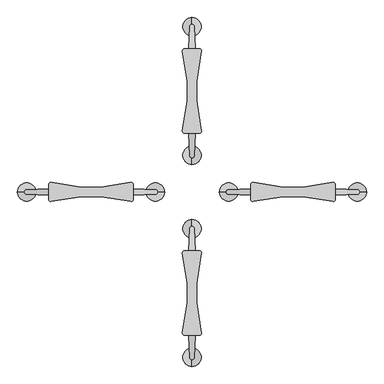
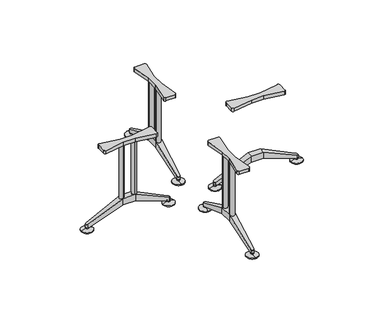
"""IFC4 building model written with IfcOpenShell, lengths in millimetres: furniture geometry, Furniture_Wilkhahn_622-45_Logon Circular Table : Logon 622/45_2000D x 730H."""

from ifc_helpers import new_model, si_unit, point, frame, frame_2d, origin, place, context, project, spatial, polyline, circle_curve, ellipse_curve, trimmed, segment, composite_curve, outline, extrude, source, transform, mapped, element, save
from ifc_brep_helpers import plane_surface, cylinder_surface, revolved_surface, advanced_brep


def furniture_6f6d3ea4(model_context):
    return source(origin(), model_context, "Body", "SolidModel", [
        advanced_brep(
        [(0.0, 926.4755164, 0.0), (0.0, 976.4755164, 0.0), (0.0, 876.4755164, 0.0), (0.0, 976.4755164, 6.0), (0.0, 876.4755164, 6.0), (0.0, 938.9511544, 17.0), (0.0, 913.9998784, 17.0), (0.0, 938.9511544, 27.0), (0.0, 913.9998784, 27.0), (0.0, 926.4755164, 27.0)],
        [
            (0, 1),
            (1, 2, circle_curve(frame((0.0, 926.4755164, 0.0), z_axis=(0.0, 0.0, -1.0), x_axis=(0.0, 1.0, 0.0)), 50.0)),
            (2, 0),
            (2, 1, circle_curve(frame((0.0, 926.4755164, 0.0), z_axis=(0.0, 0.0, -1.0), x_axis=(0.0, 1.0, 0.0)), 50.0)),
            (1, 3),
            (3, 4, circle_curve(frame((0.0, 926.4755164, 6.0), z_axis=(0.0, 0.0, -1.0), x_axis=(0.0, 1.0, 0.0)), 50.0)),
            (4, 2),
            (4, 3, circle_curve(frame((0.0, 926.4755164, 6.0), z_axis=(0.0, 0.0, -1.0), x_axis=(0.0, 1.0, 0.0)), 50.0)),
            (3, 5),
            (5, 6, circle_curve(frame((0.0, 926.4755164, 17.0), z_axis=(0.0, 0.0, -1.0), x_axis=(0.0, 1.0, 0.0)), 12.475638)),
            (6, 4),
            (6, 5, circle_curve(frame((0.0, 926.4755164, 17.0), z_axis=(0.0, 0.0, -1.0), x_axis=(0.0, 1.0, 0.0)), 12.475638)),
            (5, 7),
            (7, 8, circle_curve(frame((0.0, 926.4755164, 27.0), z_axis=(0.0, 0.0, -1.0), x_axis=(0.0, 1.0, 0.0)), 12.475638)),
            (8, 6),
            (8, 7, circle_curve(frame((0.0, 926.4755164, 27.0), z_axis=(0.0, 0.0, -1.0), x_axis=(0.0, 1.0, 0.0)), 12.475638)),
            (7, 9),
            (9, 8),
        ],
        [
            plane_surface(frame((0.0, 926.4755164, 0.0), z_axis=(0.0, 0.0, -1.0), x_axis=(0.0, 1.0, 0.0))),
            cylinder_surface(frame((0.0, 926.4755164, 27.0), z_axis=(0.0, 0.0, -1.0), x_axis=(0.0, 1.0, 0.0)), 50.0),
            revolved_surface(polyline([(0.0, 938.9511544, 17.0), (0.0, 976.4755164, 6.0)]), (0.0, 926.4755164, 27.0), (0.0, 0.0, -1.0)),
            cylinder_surface(frame((0.0, 926.4755164, 27.0), z_axis=(0.0, 0.0, -1.0), x_axis=(0.0, 1.0, 0.0)), 12.475638),
            plane_surface(frame((0.0, 926.4755164, 27.0), z_axis=(0.0, 0.0, 1.0), x_axis=(0.0, 1.0, 0.0))),
        ],
        [
            (0, [[1, 2, 3]]),
            (0, [[-3, 4, -1]]),
            (1, [[-2, 5, 6, 7]]),
            (1, [[-4, -7, 8, -5]]),
            (2, [[-6, 9, 10, 11]]),
            (2, [[-8, -11, 12, -9]]),
            (3, [[-10, 13, 14, 15]]),
            (3, [[-12, -15, 16, -13]]),
            (4, [[-14, 17, 18]]),
            (4, [[-16, -18, -17]]),
        ],
    ),
        advanced_brep(
        [(0.0, 275.4267924, 0.0), (0.0, 175.4267924, 0.0), (0.0, 225.4267924, 0.0), (0.0, 275.4267924, 6.0), (0.0, 175.4267924, 6.0), (0.0, 237.9024304, 17.0), (0.0, 212.9511544, 17.0), (0.0, 237.9024304, 27.0), (0.0, 212.9511544, 27.0), (0.0, 225.4267924, 27.0)],
        [
            (0, 1, circle_curve(frame((0.0, 225.4267924, 0.0), z_axis=(0.0, 0.0, -1.0), x_axis=(0.0, -1.0, 0.0)), 50.0)),
            (1, 2),
            (2, 0),
            (1, 0, circle_curve(frame((0.0, 225.4267924, 0.0), z_axis=(0.0, 0.0, -1.0), x_axis=(0.0, -1.0, 0.0)), 50.0)),
            (3, 4, circle_curve(frame((0.0, 225.4267924, 6.0), z_axis=(0.0, 0.0, -1.0), x_axis=(0.0, -1.0, 0.0)), 50.0)),
            (4, 1),
            (0, 3),
            (4, 3, circle_curve(frame((0.0, 225.4267924, 6.0), z_axis=(0.0, 0.0, -1.0), x_axis=(0.0, -1.0, 0.0)), 50.0)),
            (5, 6, circle_curve(frame((0.0, 225.4267924, 17.0), z_axis=(0.0, 0.0, -1.0), x_axis=(0.0, -1.0, 0.0)), 12.475638)),
            (6, 4),
            (3, 5),
            (6, 5, circle_curve(frame((0.0, 225.4267924, 17.0), z_axis=(0.0, 0.0, -1.0), x_axis=(0.0, -1.0, 0.0)), 12.475638)),
            (7, 8, circle_curve(frame((0.0, 225.4267924, 27.0), z_axis=(0.0, 0.0, -1.0), x_axis=(0.0, -1.0, 0.0)), 12.475638)),
            (8, 6),
            (5, 7),
            (8, 7, circle_curve(frame((0.0, 225.4267924, 27.0), z_axis=(0.0, 0.0, -1.0), x_axis=(0.0, -1.0, 0.0)), 12.475638)),
            (9, 8),
            (7, 9),
        ],
        [
            plane_surface(frame((0.0, 225.4267924, 0.0), z_axis=(0.0, 0.0, -1.0), x_axis=(0.0, -1.0, 0.0))),
            cylinder_surface(frame((0.0, 225.4267924, 27.0), z_axis=(0.0, 0.0, 1.0), x_axis=(0.0, -1.0, 0.0)), 50.0),
            revolved_surface(polyline([(0.0, 175.4267924, 6.0), (0.0, 212.9511544, 17.0)]), (0.0, 225.4267924, 27.0), (0.0, 0.0, 1.0)),
            cylinder_surface(frame((0.0, 225.4267924, 27.0), z_axis=(0.0, 0.0, 1.0), x_axis=(0.0, -1.0, 0.0)), 12.475638),
            plane_surface(frame((0.0, 225.4267924, 27.0), z_axis=(0.0, 0.0, 1.0), x_axis=(0.0, -1.0, 0.0))),
        ],
        [
            (0, [[1, 2, 3]]),
            (0, [[4, -3, -2]]),
            (1, [[5, 6, -1, 7]]),
            (1, [[8, -7, -4, -6]]),
            (2, [[9, 10, -5, 11]]),
            (2, [[12, -11, -8, -10]]),
            (3, [[13, 14, -9, 15]]),
            (3, [[16, -15, -12, -14]]),
            (4, [[17, -13, 18]]),
            (4, [[-18, -16, -17]]),
        ],
    ),
        extrude(outline(composite_curve([segment(polyline([(-25.0, 628.9511544), (-51.7160071, 792.0109222)]), True, "CONTINUOUS"), segment(trimmed(circle_curve(frame_2d((-39.8739001, 793.9511544)), 12.0), [point((-51.7160071, 792.0109222))], [point((-39.8739001, 805.9511544))], False, "CARTESIAN"), True, "CONTINUOUS"), segment(polyline([(-39.8739001, 805.9511544), (39.8739001, 805.9511544)]), True, "CONTINUOUS"), segment(trimmed(circle_curve(frame_2d((39.8739001, 793.9511544)), 12.0), [point((39.8739001, 805.9511544))], [point((51.7160071, 792.0109222))], False, "CARTESIAN"), True, "CONTINUOUS"), segment(polyline([(51.7160071, 792.0109222), (25.0, 628.9511544), (25.0, 522.9511544), (51.7160071, 359.8913867)]), True, "CONTINUOUS"), segment(trimmed(circle_curve(frame_2d((39.8739001, 357.9511544)), 12.0), [point((51.7160071, 359.8913867))], [point((39.8739001, 345.9511544))], False, "CARTESIAN"), True, "CONTINUOUS"), segment(polyline([(39.8739001, 345.9511544), (-39.8739001, 345.9511544)]), True, "CONTINUOUS"), segment(trimmed(circle_curve(frame_2d((-39.8739001, 357.9511544)), 12.0), [point((-39.8739001, 345.9511544))], [point((-51.7160071, 359.8913867))], False, "CARTESIAN"), True, "CONTINUOUS"), segment(polyline([(-51.7160071, 359.8913867), (-25.0, 522.9511544), (-25.0, 628.9511544)]), True, "CONTINUOUS")], self_intersect=False)), frame((0.0, 0.0, 675.0), z_axis=(0.0, 0.0, 1.0), x_axis=(1.0, 0.0, 0.0)), (0.0, 0.0, 1.0), 29.0),
        advanced_brep(
        [(25.0, 522.9511544, 140.0), (25.0, 628.9511544, 140.0), (25.0, 628.9511544, 195.0), (25.0, 522.9511544, 195.0), (-25.0, 522.9511544, 195.0), (-25.0, 628.9511544, 195.0), (-25.0, 628.9511544, 140.0), (-25.0, 522.9511544, 140.0), (-13.4930419, 237.9024304, 27.0), (13.4930419, 237.9024304, 27.0), (12.9894205, 225.4267924, 27.0), (0.0, 212.9511544, 27.0), (-12.9894205, 225.4267924, 27.0), (-12.9894205, 225.4267924, 56.4159205), (0.0, 212.9511544, 50.6048844), (12.9894205, 225.4267924, 56.4159205), (-12.9894205, 926.4755164, 56.4159205), (-12.9894205, 926.4755164, 27.0), (-13.4930419, 913.9998784, 27.0), (12.9894205, 926.4755164, 27.0), (12.9894205, 926.4755164, 56.4159205), (13.4930419, 913.9998784, 27.0), (0.0, 938.9511544, 27.0), (0.0, 938.9511544, 50.6048844)],
        [
            (0, 1),
            (1, 2),
            (2, 3),
            (3, 0),
            (4, 5),
            (5, 6),
            (6, 7),
            (7, 4),
            (8, 9),
            (9, 10),
            (10, 11, circle_curve(frame((0.0, 225.9511544, 27.0), z_axis=(0.0, 0.0, -1.0), x_axis=(-1.0, 0.0, 0.0)), 13.0)),
            (11, 12, circle_curve(frame((0.0, 225.9511544, 27.0), z_axis=(0.0, 0.0, -1.0), x_axis=(-1.0, 0.0, 0.0)), 13.0)),
            (12, 8),
            (3, 4),
            (4, 13),
            (13, 14, ellipse_curve(frame((0.0, 225.9511544, 56.6601634), z_axis=(0.0, -0.4222333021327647, 0.9064871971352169), x_axis=(0.0, -0.906487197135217, -0.4222333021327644)), 14.341074, 13.0)),
            (14, 15, ellipse_curve(frame((0.0, 225.9511544, 56.6601634), z_axis=(0.0, -0.4222333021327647, 0.9064871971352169), x_axis=(0.0, -0.906487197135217, -0.4222333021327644)), 14.341074, 13.0)),
            (15, 3),
            (7, 0),
            (0, 9),
            (8, 7),
            (16, 17),
            (17, 18),
            (18, 6),
            (5, 16),
            (19, 20),
            (20, 2),
            (1, 21),
            (21, 19),
            (2, 5),
            (6, 1),
            (19, 22, circle_curve(frame((0.0, 925.9511544, 27.0), z_axis=(0.0, 0.0, 1.0), x_axis=(-1.0, 0.0, 0.0)), 13.0)),
            (22, 17, circle_curve(frame((0.0, 925.9511544, 27.0), z_axis=(0.0, 0.0, 1.0), x_axis=(-1.0, 0.0, 0.0)), 13.0)),
            (16, 23, ellipse_curve(frame((0.0, 925.9511544, 56.6601634), z_axis=(0.0, -0.4222333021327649, -0.9064871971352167), x_axis=(0.0, 0.9064871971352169, -0.4222333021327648)), 14.341074, 13.0)),
            (23, 20, ellipse_curve(frame((0.0, 925.9511544, 56.6601634), z_axis=(0.0, -0.4222333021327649, -0.9064871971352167), x_axis=(0.0, 0.9064871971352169, -0.4222333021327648)), 14.341074, 13.0)),
            (15, 10),
            (13, 12),
            (21, 18),
        ],
        [
            plane_surface(frame((25.0, 229.6976943, 27.0), z_axis=(1.0, 0.0, 0.0), x_axis=(0.0, 1.0, 0.0))),
            plane_surface(frame((-25.0, 229.6976943, 27.0), z_axis=(-1.0, 0.0, 0.0), x_axis=(0.0, -1.0, 0.0))),
            plane_surface(frame((-25.0, 237.9024304, 27.0), z_axis=(0.0, 0.0, -1.0), x_axis=(1.0, 0.0, 0.0))),
            plane_surface(frame((-25.0, 212.9511544, 50.6048844), z_axis=(0.0, -0.4222333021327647, 0.9064871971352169), x_axis=(1.0, 0.0, 0.0))),
            plane_surface(frame((-25.0, 522.9511544, 140.0), z_axis=(0.0, 0.3685226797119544, -0.929618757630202), x_axis=(1.0, 0.0, 0.0))),
            plane_surface(frame((-25.0, 628.9511544, 195.0), z_axis=(-0.9991861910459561, 0.04033553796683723, 0.0), x_axis=(0.0, 0.0, -1.0))),
            plane_surface(frame((12.9894205, 926.4755164, 195.0), z_axis=(0.9991861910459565, 0.040335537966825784, 0.0), x_axis=(0.0, 0.0, -1.0))),
            plane_surface(frame((-25.0, 522.9511544, 195.0), z_axis=(0.0, 0.0, 1.0), x_axis=(1.0, 0.0, 0.0))),
            plane_surface(frame((-25.0, 628.9511544, 140.0), z_axis=(0.0, 0.0, -1.0), x_axis=(1.0, 0.0, 0.0))),
            cylinder_surface(frame((0.0, 925.9511544, 0.0), z_axis=(0.0, 0.0, -1.0), x_axis=(-1.0, 0.0, 0.0)), 13.0),
            plane_surface(frame((25.0, 522.9511544, 195.0), z_axis=(0.9991861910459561, -0.04033553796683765, 0.0), x_axis=(0.0, 0.0, -1.0))),
            cylinder_surface(frame((0.0, 225.9511544, -14.190167), z_axis=(0.0, 0.0, -1.0), x_axis=(-1.0, 0.0, 0.0)), 13.0),
            plane_surface(frame((-12.9894205, 225.4267924, 195.0), z_axis=(-0.9991861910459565, -0.04033553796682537, 0.0), x_axis=(0.0, 0.0, -1.0))),
            plane_surface(frame((-25.0, 628.9511544, 195.0), z_axis=(0.0, 0.4222333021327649, 0.9064871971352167), x_axis=(1.0, 0.0, 0.0))),
            plane_surface(frame((-25.0, 938.9511544, 27.0), z_axis=(0.0, 0.0, -1.0), x_axis=(1.0, 0.0, 0.0))),
            plane_surface(frame((-25.0, 913.9998784, 27.0), z_axis=(0.0, -0.3685226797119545, -0.929618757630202), x_axis=(1.0, 0.0, 0.0))),
        ],
        [
            (0, [[1, 2, 3, 4]]),
            (1, [[5, 6, 7, 8]]),
            (2, [[9, 10, 11, 12, 13]]),
            (3, [[14, 15, 16, 17, 18]]),
            (4, [[19, 20, -9, 21]]),
            (5, [[22, 23, 24, -6, 25]]),
            (6, [[26, 27, -2, 28, 29]]),
            (7, [[-3, 30, -5, -14]]),
            (8, [[-1, -19, -7, 31]]),
            (9, [[-26, 32, 33, -22, 34, 35]]),
            (10, [[36, -10, -20, -4, -18]]),
            (11, [[-36, -17, -16, 37, -12, -11]]),
            (12, [[-37, -15, -8, -21, -13]]),
            (13, [[-30, -27, -35, -34, -25]]),
            (14, [[38, -23, -33, -32, -29]]),
            (15, [[-31, -24, -38, -28]]),
        ],
    ),
        extrude(outline(composite_curve([segment(trimmed(circle_curve(frame_2d((0.0, 628.9511544)), 20.0), [point((20.0, 628.9511544))], [point((-20.0, 628.9511544))], False, "CARTESIAN"), True, "CONTINUOUS"), segment(trimmed(circle_curve(frame_2d((0.0, 628.9511544)), 20.0), [point((-20.0, 628.9511544))], [point((20.0, 628.9511544))], False, "CARTESIAN"), True, "CONTINUOUS")], self_intersect=False)), frame((0.0, 0.0, 140.0), z_axis=(0.0, 0.0, 1.0), x_axis=(1.0, 0.0, 0.0)), (0.0, 0.0, 1.0), 535.0),
        extrude(outline(composite_curve([segment(trimmed(circle_curve(frame_2d((0.0, 522.9511544)), 20.0), [point((20.0, 522.9511544))], [point((-20.0, 522.9511544))], False, "CARTESIAN"), True, "CONTINUOUS"), segment(trimmed(circle_curve(frame_2d((0.0, 522.9511544)), 20.0), [point((-20.0, 522.9511544))], [point((20.0, 522.9511544))], False, "CARTESIAN"), True, "CONTINUOUS")], self_intersect=False)), frame((0.0, 0.0, 140.0), z_axis=(0.0, 0.0, 1.0), x_axis=(1.0, 0.0, 0.0)), (0.0, 0.0, 1.0), 535.0),
        advanced_brep(
        [(0.0, -874.5732076, 0.0), (0.0, -824.5732076, 0.0), (0.0, -924.5732076, 0.0), (0.0, -824.5732076, 6.0), (0.0, -924.5732076, 6.0), (0.0, -862.0975696, 17.0), (0.0, -887.0488456, 17.0), (0.0, -862.0975696, 27.0), (0.0, -887.0488456, 27.0), (0.0, -874.5732076, 27.0)],
        [
            (0, 1),
            (1, 2, circle_curve(frame((0.0, -874.5732076, 0.0), z_axis=(0.0, 0.0, -1.0), x_axis=(0.0, -1.0, 0.0)), 50.0)),
            (2, 0),
            (2, 1, circle_curve(frame((0.0, -874.5732076, 0.0), z_axis=(0.0, 0.0, -1.0), x_axis=(0.0, -1.0, 0.0)), 50.0)),
            (1, 3),
            (3, 4, circle_curve(frame((0.0, -874.5732076, 6.0), z_axis=(0.0, 0.0, -1.0), x_axis=(0.0, -1.0, 0.0)), 50.0)),
            (4, 2),
            (4, 3, circle_curve(frame((0.0, -874.5732076, 6.0), z_axis=(0.0, 0.0, -1.0), x_axis=(0.0, -1.0, 0.0)), 50.0)),
            (3, 5),
            (5, 6, circle_curve(frame((0.0, -874.5732076, 17.0), z_axis=(0.0, 0.0, -1.0), x_axis=(0.0, -1.0, 0.0)), 12.475638)),
            (6, 4),
            (6, 5, circle_curve(frame((0.0, -874.5732076, 17.0), z_axis=(0.0, 0.0, -1.0), x_axis=(0.0, -1.0, 0.0)), 12.475638)),
            (5, 7),
            (7, 8, circle_curve(frame((0.0, -874.5732076, 27.0), z_axis=(0.0, 0.0, -1.0), x_axis=(0.0, -1.0, 0.0)), 12.475638)),
            (8, 6),
            (8, 7, circle_curve(frame((0.0, -874.5732076, 27.0), z_axis=(0.0, 0.0, -1.0), x_axis=(0.0, -1.0, 0.0)), 12.475638)),
            (7, 9),
            (9, 8),
        ],
        [
            plane_surface(frame((0.0, -874.5732076, 0.0), z_axis=(0.0, 0.0, -1.0), x_axis=(0.0, -1.0, 0.0))),
            cylinder_surface(frame((0.0, -874.5732076, 27.0), z_axis=(0.0, 0.0, -1.0), x_axis=(0.0, -1.0, 0.0)), 50.0),
            revolved_surface(polyline([(0.0, -887.0488456, 17.0), (0.0, -924.5732076, 6.0)]), (0.0, -874.5732076, 27.0), (0.0, 0.0, -1.0)),
            cylinder_surface(frame((0.0, -874.5732076, 27.0), z_axis=(0.0, 0.0, -1.0), x_axis=(0.0, -1.0, 0.0)), 12.475638),
            plane_surface(frame((0.0, -874.5732076, 27.0), z_axis=(0.0, 0.0, 1.0), x_axis=(0.0, -1.0, 0.0))),
        ],
        [
            (0, [[1, 2, 3]]),
            (0, [[-3, 4, -1]]),
            (1, [[5, 6, 7, -2]]),
            (1, [[-7, 8, -5, -4]]),
            (2, [[9, 10, 11, -6]]),
            (2, [[-11, 12, -9, -8]]),
            (3, [[13, 14, 15, -10]]),
            (3, [[-15, 16, -13, -12]]),
            (4, [[17, 18, -14]]),
            (4, [[-18, -17, -16]]),
        ],
    ),
        advanced_brep(
        [(0.0, -223.5244836, 0.0), (0.0, -173.5244836, 0.0), (0.0, -123.5244836, 0.0), (0.0, -223.5244836, 6.0), (0.0, -123.5244836, 6.0), (0.0, -186.0001216, 17.0), (0.0, -161.0488456, 17.0), (0.0, -186.0001216, 27.0), (0.0, -161.0488456, 27.0), (0.0, -173.5244836, 27.0)],
        [
            (0, 1),
            (1, 2),
            (2, 0, circle_curve(frame((0.0, -173.5244836, 0.0), z_axis=(0.0, 0.0, -1.0), x_axis=(0.0, 1.0, 0.0)), 50.0)),
            (0, 2, circle_curve(frame((0.0, -173.5244836, 0.0), z_axis=(0.0, 0.0, -1.0), x_axis=(0.0, 1.0, 0.0)), 50.0)),
            (3, 0),
            (2, 4),
            (4, 3, circle_curve(frame((0.0, -173.5244836, 6.0), z_axis=(0.0, 0.0, -1.0), x_axis=(0.0, 1.0, 0.0)), 50.0)),
            (3, 4, circle_curve(frame((0.0, -173.5244836, 6.0), z_axis=(0.0, 0.0, -1.0), x_axis=(0.0, 1.0, 0.0)), 50.0)),
            (5, 3),
            (4, 6),
            (6, 5, circle_curve(frame((0.0, -173.5244836, 17.0), z_axis=(0.0, 0.0, -1.0), x_axis=(0.0, 1.0, 0.0)), 12.475638)),
            (5, 6, circle_curve(frame((0.0, -173.5244836, 17.0), z_axis=(0.0, 0.0, -1.0), x_axis=(0.0, 1.0, 0.0)), 12.475638)),
            (7, 5),
            (6, 8),
            (8, 7, circle_curve(frame((0.0, -173.5244836, 27.0), z_axis=(0.0, 0.0, -1.0), x_axis=(0.0, 1.0, 0.0)), 12.475638)),
            (7, 8, circle_curve(frame((0.0, -173.5244836, 27.0), z_axis=(0.0, 0.0, -1.0), x_axis=(0.0, 1.0, 0.0)), 12.475638)),
            (9, 7),
            (8, 9),
        ],
        [
            plane_surface(frame((0.0, -173.5244836, 0.0), z_axis=(0.0, 0.0, -1.0), x_axis=(0.0, 1.0, 0.0))),
            cylinder_surface(frame((0.0, -173.5244836, 27.0), z_axis=(0.0, 0.0, 1.0), x_axis=(0.0, 1.0, 0.0)), 50.0),
            revolved_surface(polyline([(0.0, -123.5244836, 6.0), (0.0, -161.0488456, 17.0)]), (0.0, -173.5244836, 27.0), (0.0, 0.0, 1.0)),
            cylinder_surface(frame((0.0, -173.5244836, 27.0), z_axis=(0.0, 0.0, 1.0), x_axis=(0.0, 1.0, 0.0)), 12.475638),
            plane_surface(frame((0.0, -173.5244836, 27.0), z_axis=(0.0, 0.0, 1.0), x_axis=(0.0, 1.0, 0.0))),
        ],
        [
            (0, [[1, 2, 3]]),
            (0, [[-2, -1, 4]]),
            (1, [[5, -3, 6, 7]]),
            (1, [[-6, -4, -5, 8]]),
            (2, [[9, -7, 10, 11]]),
            (2, [[-10, -8, -9, 12]]),
            (3, [[13, -11, 14, 15]]),
            (3, [[-14, -12, -13, 16]]),
            (4, [[17, -15, 18]]),
            (4, [[-18, -16, -17]]),
        ],
    ),
        extrude(outline(composite_curve([segment(polyline([(-25.0, -577.0488456), (-25.0, -471.0488456), (-51.7160071, -307.9890778)]), True, "CONTINUOUS"), segment(trimmed(circle_curve(frame_2d((-39.8739001, -306.0488456)), 12.0), [point((-51.7160071, -307.9890778))], [point((-39.8739001, -294.0488456))], False, "CARTESIAN"), True, "CONTINUOUS"), segment(polyline([(-39.8739001, -294.0488456), (39.8739001, -294.0488456)]), True, "CONTINUOUS"), segment(trimmed(circle_curve(frame_2d((39.8739001, -306.0488456)), 12.0), [point((39.8739001, -294.0488456))], [point((51.7160071, -307.9890778))], False, "CARTESIAN"), True, "CONTINUOUS"), segment(polyline([(51.7160071, -307.9890778), (25.0, -471.0488456), (25.0, -577.0488456), (51.7160071, -740.1086133)]), True, "CONTINUOUS"), segment(trimmed(circle_curve(frame_2d((39.8739001, -742.0488456)), 12.0), [point((51.7160071, -740.1086133))], [point((39.8739001, -754.0488456))], False, "CARTESIAN"), True, "CONTINUOUS"), segment(polyline([(39.8739001, -754.0488456), (-39.8739001, -754.0488456)]), True, "CONTINUOUS"), segment(trimmed(circle_curve(frame_2d((-39.8739001, -742.0488456)), 12.0), [point((-39.8739001, -754.0488456))], [point((-51.7160071, -740.1086133))], False, "CARTESIAN"), True, "CONTINUOUS"), segment(polyline([(-51.7160071, -740.1086133), (-25.0, -577.0488456)]), True, "CONTINUOUS")], self_intersect=False)), frame((0.0, 0.0, 675.0), z_axis=(0.0, 0.0, 1.0), x_axis=(1.0, 0.0, 0.0)), (0.0, 0.0, 1.0), 29.0),
        advanced_brep(
        [(25.0, -471.0488456, 140.0), (25.0, -471.0488456, 195.0), (25.0, -577.0488456, 195.0), (25.0, -577.0488456, 140.0), (-25.0, -471.0488456, 195.0), (-25.0, -471.0488456, 140.0), (-25.0, -577.0488456, 140.0), (-25.0, -577.0488456, 195.0), (-13.4930419, -186.0001216, 27.0), (-12.9894205, -173.5244836, 27.0), (0.0, -161.0488456, 27.0), (12.9894205, -173.5244836, 27.0), (13.4930419, -186.0001216, 27.0), (12.9894205, -173.5244836, 56.4159205), (0.0, -161.0488456, 50.6048844), (-12.9894205, -173.5244836, 56.4159205), (-12.9894205, -874.5732076, 56.4159205), (-13.4930419, -862.0975696, 27.0), (-12.9894205, -874.5732076, 27.0), (12.9894205, -874.5732076, 27.0), (13.4930419, -862.0975696, 27.0), (12.9894205, -874.5732076, 56.4159205), (0.0, -887.0488456, 50.6048844), (0.0, -887.0488456, 27.0)],
        [
            (0, 1),
            (1, 2),
            (2, 3),
            (3, 0),
            (4, 5),
            (5, 6),
            (6, 7),
            (7, 4),
            (8, 9),
            (9, 10, circle_curve(frame((0.0, -174.0488456, 27.0), z_axis=(0.0, 0.0, -1.0), x_axis=(-1.0, 0.0, 0.0)), 13.0)),
            (10, 11, circle_curve(frame((0.0, -174.0488456, 27.0), z_axis=(0.0, 0.0, -1.0), x_axis=(-1.0, 0.0, 0.0)), 13.0)),
            (11, 12),
            (12, 8),
            (1, 13),
            (13, 14, ellipse_curve(frame((0.0, -174.0488456, 56.6601634), z_axis=(0.0, 0.4222333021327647, 0.9064871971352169), x_axis=(0.0, 0.906487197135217, -0.4222333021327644)), 14.341074, 13.0)),
            (14, 15, ellipse_curve(frame((0.0, -174.0488456, 56.6601634), z_axis=(0.0, 0.4222333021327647, 0.9064871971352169), x_axis=(0.0, 0.906487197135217, -0.4222333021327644)), 14.341074, 13.0)),
            (15, 4),
            (4, 1),
            (5, 8),
            (12, 0),
            (0, 5),
            (16, 7),
            (6, 17),
            (17, 18),
            (18, 16),
            (19, 20),
            (20, 3),
            (2, 21),
            (21, 19),
            (7, 2),
            (3, 6),
            (21, 22, ellipse_curve(frame((0.0, -874.0488456, 56.6601634), z_axis=(0.0, 0.4222333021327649, -0.9064871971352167), x_axis=(0.0, -0.9064871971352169, -0.4222333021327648)), 14.341074, 13.0)),
            (22, 16, ellipse_curve(frame((0.0, -874.0488456, 56.6601634), z_axis=(0.0, 0.4222333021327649, -0.9064871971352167), x_axis=(0.0, -0.9064871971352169, -0.4222333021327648)), 14.341074, 13.0)),
            (18, 23, circle_curve(frame((0.0, -874.0488456, 27.0), z_axis=(0.0, 0.0, 1.0), x_axis=(-1.0, 0.0, 0.0)), 13.0)),
            (23, 19, circle_curve(frame((0.0, -874.0488456, 27.0), z_axis=(0.0, 0.0, 1.0), x_axis=(-1.0, 0.0, 0.0)), 13.0)),
            (11, 13),
            (9, 15),
            (17, 20),
        ],
        [
            plane_surface(frame((25.0, -177.7953854, 27.0), z_axis=(1.0, 0.0, 0.0), x_axis=(0.0, -1.0, 0.0))),
            plane_surface(frame((-25.0, -177.7953854, 27.0), z_axis=(-1.0, 0.0, 0.0), x_axis=(0.0, 1.0, 0.0))),
            plane_surface(frame((-25.0, -186.0001216, 27.0), z_axis=(0.0, 0.0, -1.0), x_axis=(1.0, 0.0, 0.0))),
            plane_surface(frame((-25.0, -161.0488456, 50.6048844), z_axis=(0.0, 0.4222333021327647, 0.9064871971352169), x_axis=(1.0, 0.0, 0.0))),
            plane_surface(frame((-25.0, -471.0488456, 140.0), z_axis=(0.0, -0.3685226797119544, -0.929618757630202), x_axis=(1.0, 0.0, 0.0))),
            plane_surface(frame((-25.0, -577.0488456, 195.0), z_axis=(-0.9991861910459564, -0.040335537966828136, 0.0), x_axis=(0.0, 0.0, -1.0))),
            plane_surface(frame((12.9894205, -874.5732076, 195.0), z_axis=(0.9991861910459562, -0.04033553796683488, 0.0), x_axis=(0.0, 0.0, -1.0))),
            plane_surface(frame((-25.0, -471.0488456, 195.0), z_axis=(0.0, 0.0, 1.0), x_axis=(1.0, 0.0, 0.0))),
            plane_surface(frame((-25.0, -577.0488456, 140.0), z_axis=(0.0, 0.0, -1.0), x_axis=(1.0, 0.0, 0.0))),
            cylinder_surface(frame((0.0, -874.0488456, 0.0), z_axis=(0.0, 0.0, -1.0), x_axis=(-1.0, 0.0, 0.0)), 13.0),
            plane_surface(frame((25.0, -471.0488456, 195.0), z_axis=(0.9991861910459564, 0.04033553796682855, 0.0), x_axis=(0.0, 0.0, -1.0))),
            cylinder_surface(frame((0.0, -174.0488456, -14.190167), z_axis=(0.0, 0.0, -1.0), x_axis=(-1.0, 0.0, 0.0)), 13.0),
            plane_surface(frame((-12.9894205, -173.5244836, 195.0), z_axis=(-0.9991861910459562, 0.040335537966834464, 0.0), x_axis=(0.0, 0.0, -1.0))),
            plane_surface(frame((-25.0, -577.0488456, 195.0), z_axis=(0.0, -0.4222333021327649, 0.9064871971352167), x_axis=(1.0, 0.0, 0.0))),
            plane_surface(frame((-25.0, -887.0488456, 27.0), z_axis=(0.0, 0.0, -1.0), x_axis=(1.0, 0.0, 0.0))),
            plane_surface(frame((-25.0, -862.0975696, 27.0), z_axis=(0.0, 0.3685226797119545, -0.929618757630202), x_axis=(1.0, 0.0, 0.0))),
        ],
        [
            (0, [[1, 2, 3, 4]]),
            (1, [[5, 6, 7, 8]]),
            (2, [[9, 10, 11, 12, 13]]),
            (3, [[14, 15, 16, 17, 18]]),
            (4, [[19, -13, 20, 21]]),
            (5, [[22, -7, 23, 24, 25]]),
            (6, [[26, 27, -3, 28, 29]]),
            (7, [[-18, -8, 30, -2]]),
            (8, [[31, -6, -21, -4]]),
            (9, [[32, 33, -25, 34, 35, -29]]),
            (10, [[-14, -1, -20, -12, 36]]),
            (11, [[-11, -10, 37, -16, -15, -36]]),
            (12, [[-9, -19, -5, -17, -37]]),
            (13, [[-22, -33, -32, -28, -30]]),
            (14, [[-26, -35, -34, -24, 38]]),
            (15, [[-27, -38, -23, -31]]),
        ],
    ),
        extrude(outline(composite_curve([segment(trimmed(circle_curve(frame_2d((0.0, -577.0488456)), 20.0), [point((20.0, -577.0488456))], [point((-20.0, -577.0488456))], False, "CARTESIAN"), True, "CONTINUOUS"), segment(trimmed(circle_curve(frame_2d((0.0, -577.0488456)), 20.0), [point((-20.0, -577.0488456))], [point((20.0, -577.0488456))], False, "CARTESIAN"), True, "CONTINUOUS")], self_intersect=False)), frame((0.0, 0.0, 140.0), z_axis=(0.0, 0.0, 1.0), x_axis=(1.0, 0.0, 0.0)), (0.0, 0.0, 1.0), 535.0),
        extrude(outline(composite_curve([segment(trimmed(circle_curve(frame_2d((0.0, -471.0488456)), 20.0), [point((20.0, -471.0488456))], [point((-20.0, -471.0488456))], False, "CARTESIAN"), True, "CONTINUOUS"), segment(trimmed(circle_curve(frame_2d((0.0, -471.0488456)), 20.0), [point((-20.0, -471.0488456))], [point((20.0, -471.0488456))], False, "CARTESIAN"), True, "CONTINUOUS")], self_intersect=False)), frame((0.0, 0.0, 140.0), z_axis=(0.0, 0.0, 1.0), x_axis=(1.0, 0.0, 0.0)), (0.0, 0.0, 1.0), 535.0),
        advanced_brep(
        [(-900.524362, 25.9511544, 0.0), (-850.524362, 25.9511544, 0.0), (-950.524362, 25.9511544, 0.0), (-850.524362, 25.9511544, 6.0), (-950.524362, 25.9511544, 6.0), (-888.048724, 25.9511544, 17.0), (-913.0, 25.9511544, 17.0), (-888.048724, 25.9511544, 27.0), (-913.0, 25.9511544, 27.0), (-900.524362, 25.9511544, 27.0)],
        [
            (0, 1),
            (1, 2, circle_curve(frame((-900.524362, 25.9511544, 0.0), z_axis=(0.0, 0.0, -1.0), x_axis=(-1.0, 0.0, 0.0)), 50.0)),
            (2, 0),
            (2, 1, circle_curve(frame((-900.524362, 25.9511544, 0.0), z_axis=(0.0, 0.0, -1.0), x_axis=(-1.0, 0.0, 0.0)), 50.0)),
            (1, 3),
            (3, 4, circle_curve(frame((-900.524362, 25.9511544, 6.0), z_axis=(0.0, 0.0, -1.0), x_axis=(-1.0, 0.0, 0.0)), 50.0)),
            (4, 2),
            (4, 3, circle_curve(frame((-900.524362, 25.9511544, 6.0), z_axis=(0.0, 0.0, -1.0), x_axis=(-1.0, 0.0, 0.0)), 50.0)),
            (3, 5),
            (5, 6, circle_curve(frame((-900.524362, 25.9511544, 17.0), z_axis=(0.0, 0.0, -1.0), x_axis=(-1.0, 0.0, 0.0)), 12.475638)),
            (6, 4),
            (6, 5, circle_curve(frame((-900.524362, 25.9511544, 17.0), z_axis=(0.0, 0.0, -1.0), x_axis=(-1.0, 0.0, 0.0)), 12.475638)),
            (5, 7),
            (7, 8, circle_curve(frame((-900.524362, 25.9511544, 27.0), z_axis=(0.0, 0.0, -1.0), x_axis=(-1.0, 0.0, 0.0)), 12.475638)),
            (8, 6),
            (8, 7, circle_curve(frame((-900.524362, 25.9511544, 27.0), z_axis=(0.0, 0.0, -1.0), x_axis=(-1.0, 0.0, 0.0)), 12.475638)),
            (7, 9),
            (9, 8),
        ],
        [
            plane_surface(frame((-900.524362, 25.9511544, 0.0), z_axis=(0.0, 0.0, -1.0), x_axis=(-1.0, 0.0, 0.0))),
            cylinder_surface(frame((-900.524362, 25.9511544, 27.0), z_axis=(0.0, 0.0, -1.0), x_axis=(-1.0, 0.0, 0.0)), 50.0),
            revolved_surface(polyline([(-913.0, 25.9511544, 17.0), (-950.524362, 25.9511544, 6.0)]), (-900.524362, 25.9511544, 27.0), (0.0, 0.0, -1.0)),
            cylinder_surface(frame((-900.524362, 25.9511544, 27.0), z_axis=(0.0, 0.0, -1.0), x_axis=(-1.0, 0.0, 0.0)), 12.475638),
            plane_surface(frame((-900.524362, 25.9511544, 27.0), z_axis=(0.0, 0.0, 1.0), x_axis=(-1.0, 0.0, 0.0))),
        ],
        [
            (0, [[1, 2, 3]]),
            (0, [[-3, 4, -1]]),
            (1, [[5, 6, 7, -2]]),
            (1, [[-7, 8, -5, -4]]),
            (2, [[9, 10, 11, -6]]),
            (2, [[-11, 12, -9, -8]]),
            (3, [[13, 14, 15, -10]]),
            (3, [[-15, 16, -13, -12]]),
            (4, [[17, 18, -14]]),
            (4, [[-18, -17, -16]]),
        ],
    ),
        advanced_brep(
        [(-249.475638, 25.9511544, 0.0), (-199.475638, 25.9511544, 0.0), (-149.475638, 25.9511544, 0.0), (-249.475638, 25.9511544, 6.0), (-149.475638, 25.9511544, 6.0), (-211.951276, 25.9511544, 17.0), (-187.0, 25.9511544, 17.0), (-211.951276, 25.9511544, 27.0), (-187.0, 25.9511544, 27.0), (-199.475638, 25.9511544, 27.0)],
        [
            (0, 1),
            (1, 2),
            (2, 0, circle_curve(frame((-199.475638, 25.9511544, 0.0), z_axis=(0.0, 0.0, -1.0), x_axis=(1.0, 0.0, 0.0)), 50.0)),
            (0, 2, circle_curve(frame((-199.475638, 25.9511544, 0.0), z_axis=(0.0, 0.0, -1.0), x_axis=(1.0, 0.0, 0.0)), 50.0)),
            (3, 0),
            (2, 4),
            (4, 3, circle_curve(frame((-199.475638, 25.9511544, 6.0), z_axis=(0.0, 0.0, -1.0), x_axis=(1.0, 0.0, 0.0)), 50.0)),
            (3, 4, circle_curve(frame((-199.475638, 25.9511544, 6.0), z_axis=(0.0, 0.0, -1.0), x_axis=(1.0, 0.0, 0.0)), 50.0)),
            (5, 3),
            (4, 6),
            (6, 5, circle_curve(frame((-199.475638, 25.9511544, 17.0), z_axis=(0.0, 0.0, -1.0), x_axis=(1.0, 0.0, 0.0)), 12.475638)),
            (5, 6, circle_curve(frame((-199.475638, 25.9511544, 17.0), z_axis=(0.0, 0.0, -1.0), x_axis=(1.0, 0.0, 0.0)), 12.475638)),
            (7, 5),
            (6, 8),
            (8, 7, circle_curve(frame((-199.475638, 25.9511544, 27.0), z_axis=(0.0, 0.0, -1.0), x_axis=(1.0, 0.0, 0.0)), 12.475638)),
            (7, 8, circle_curve(frame((-199.475638, 25.9511544, 27.0), z_axis=(0.0, 0.0, -1.0), x_axis=(1.0, 0.0, 0.0)), 12.475638)),
            (9, 7),
            (8, 9),
        ],
        [
            plane_surface(frame((-199.475638, 25.9511544, 0.0), z_axis=(0.0, 0.0, -1.0), x_axis=(1.0, 0.0, 0.0))),
            cylinder_surface(frame((-199.475638, 25.9511544, 27.0), z_axis=(0.0, 0.0, 1.0), x_axis=(1.0, 0.0, 0.0)), 50.0),
            revolved_surface(polyline([(-149.475638, 25.9511544, 6.0), (-187.0, 25.9511544, 17.0)]), (-199.475638, 25.9511544, 27.0), (0.0, 0.0, 1.0)),
            cylinder_surface(frame((-199.475638, 25.9511544, 27.0), z_axis=(0.0, 0.0, 1.0), x_axis=(1.0, 0.0, 0.0)), 12.475638),
            plane_surface(frame((-199.475638, 25.9511544, 27.0), z_axis=(0.0, 0.0, 1.0), x_axis=(1.0, 0.0, 0.0))),
        ],
        [
            (0, [[1, 2, 3]]),
            (0, [[-2, -1, 4]]),
            (1, [[5, -3, 6, 7]]),
            (1, [[-6, -4, -5, 8]]),
            (2, [[9, -7, 10, 11]]),
            (2, [[-10, -8, -9, 12]]),
            (3, [[13, -11, 14, 15]]),
            (3, [[-14, -12, -13, 16]]),
            (4, [[17, -15, 18]]),
            (4, [[-18, -16, -17]]),
        ],
    ),
        extrude(outline(composite_curve([segment(polyline([(-603.0, 50.9511544), (-497.0, 50.9511544), (-333.9402322, 77.6671616)]), True, "CONTINUOUS"), segment(trimmed(circle_curve(frame_2d((-332.0, 65.8250546)), 12.0), [point((-333.9402322, 77.6671616))], [point((-320.0, 65.8250546))], False, "CARTESIAN"), True, "CONTINUOUS"), segment(polyline([(-320.0, 65.8250546), (-320.0, -13.9227457)]), True, "CONTINUOUS"), segment(trimmed(circle_curve(frame_2d((-332.0, -13.9227457)), 12.0), [point((-320.0, -13.9227457))], [point((-333.9402322, -25.7648527))], False, "CARTESIAN"), True, "CONTINUOUS"), segment(polyline([(-333.9402322, -25.7648527), (-497.0, 0.9511544), (-603.0, 0.9511544), (-766.0597678, -25.7648527)]), True, "CONTINUOUS"), segment(trimmed(circle_curve(frame_2d((-768.0, -13.9227457)), 12.0), [point((-766.0597678, -25.7648527))], [point((-780.0, -13.9227457))], False, "CARTESIAN"), True, "CONTINUOUS"), segment(polyline([(-780.0, -13.9227457), (-780.0, 65.8250546)]), True, "CONTINUOUS"), segment(trimmed(circle_curve(frame_2d((-768.0, 65.8250546)), 12.0), [point((-780.0, 65.8250546))], [point((-766.0597678, 77.6671616))], False, "CARTESIAN"), True, "CONTINUOUS"), segment(polyline([(-766.0597678, 77.6671616), (-603.0, 50.9511544)]), True, "CONTINUOUS")], self_intersect=False)), frame((0.0, 0.0, 675.0), z_axis=(0.0, 0.0, 1.0), x_axis=(1.0, 0.0, 0.0)), (0.0, 0.0, 1.0), 29.0),
        advanced_brep(
        [(-497.0, 0.9511544, 140.0), (-497.0, 0.9511544, 195.0), (-603.0, 0.9511544, 195.0), (-603.0, 0.9511544, 140.0), (-497.0, 50.9511544, 195.0), (-497.0, 50.9511544, 140.0), (-603.0, 50.9511544, 140.0), (-603.0, 50.9511544, 195.0), (-211.951276, 39.4441963, 27.0), (-199.475638, 38.9405749, 27.0), (-187.0, 25.9511544, 27.0), (-199.475638, 12.9617339, 27.0), (-211.951276, 12.4581125, 27.0), (-199.475638, 12.9617339, 56.4159205), (-187.0, 25.9511544, 50.6048844), (-199.475638, 38.9405749, 56.4159205), (-900.524362, 38.9405749, 56.4159205), (-888.048724, 39.4441963, 27.0), (-900.524362, 38.9405749, 27.0), (-900.524362, 12.9617339, 27.0), (-888.048724, 12.4581125, 27.0), (-900.524362, 12.9617339, 56.4159205), (-913.0, 25.9511544, 50.6048844), (-913.0, 25.9511544, 27.0)],
        [
            (0, 1),
            (1, 2),
            (2, 3),
            (3, 0),
            (4, 5),
            (5, 6),
            (6, 7),
            (7, 4),
            (8, 9),
            (9, 10, circle_curve(frame((-200.0, 25.9511544, 27.0), z_axis=(0.0, 0.0, -1.0), x_axis=(0.0, 1.0, 0.0)), 13.0)),
            (10, 11, circle_curve(frame((-200.0, 25.9511544, 27.0), z_axis=(0.0, 0.0, -1.0), x_axis=(0.0, 1.0, 0.0)), 13.0)),
            (11, 12),
            (12, 8),
            (1, 13),
            (13, 14, ellipse_curve(frame((-200.0, 25.9511544, 56.6601634), z_axis=(0.4222333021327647, 0.0, 0.9064871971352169), x_axis=(0.906487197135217, 0.0, -0.4222333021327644)), 14.341074, 13.0)),
            (14, 15, ellipse_curve(frame((-200.0, 25.9511544, 56.6601634), z_axis=(0.4222333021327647, 0.0, 0.9064871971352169), x_axis=(0.906487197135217, 0.0, -0.4222333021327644)), 14.341074, 13.0)),
            (15, 4),
            (4, 1),
            (5, 8),
            (12, 0),
            (0, 5),
            (16, 7),
            (6, 17),
            (17, 18),
            (18, 16),
            (19, 20),
            (20, 3),
            (2, 21),
            (21, 19),
            (7, 2),
            (3, 6),
            (21, 22, ellipse_curve(frame((-900.0, 25.9511544, 56.6601634), z_axis=(0.4222333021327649, 0.0, -0.9064871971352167), x_axis=(-0.9064871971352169, 0.0, -0.4222333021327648)), 14.341074, 13.0)),
            (22, 16, ellipse_curve(frame((-900.0, 25.9511544, 56.6601634), z_axis=(0.4222333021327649, 0.0, -0.9064871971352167), x_axis=(-0.9064871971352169, 0.0, -0.4222333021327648)), 14.341074, 13.0)),
            (18, 23, circle_curve(frame((-900.0, 25.9511544, 27.0), z_axis=(0.0, 0.0, 1.0), x_axis=(0.0, 1.0, 0.0)), 13.0)),
            (23, 19, circle_curve(frame((-900.0, 25.9511544, 27.0), z_axis=(0.0, 0.0, 1.0), x_axis=(0.0, 1.0, 0.0)), 13.0)),
            (11, 13),
            (9, 15),
            (17, 20),
        ],
        [
            plane_surface(frame((-203.7465398, 0.9511544, 27.0), z_axis=(0.0, -1.0, 0.0), x_axis=(-1.0, 0.0, 0.0))),
            plane_surface(frame((-203.7465398, 50.9511544, 27.0), z_axis=(0.0, 1.0, 0.0), x_axis=(1.0, 0.0, 0.0))),
            plane_surface(frame((-211.951276, 50.9511544, 27.0), z_axis=(0.0, 0.0, -1.0), x_axis=(0.0, -1.0, 0.0))),
            plane_surface(frame((-187.0, 50.9511544, 50.6048844), z_axis=(0.4222333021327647, 0.0, 0.9064871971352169), x_axis=(0.0, -1.0, 0.0))),
            plane_surface(frame((-497.0, 50.9511544, 140.0), z_axis=(-0.3685226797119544, 0.0, -0.929618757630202), x_axis=(0.0, -1.0, 0.0))),
            plane_surface(frame((-603.0, 50.9511544, 195.0), z_axis=(-0.040335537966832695, 0.9991861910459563, 0.0), x_axis=(0.0, 0.0, -1.0))),
            plane_surface(frame((-900.524362, 12.9617339, 195.0), z_axis=(-0.04033553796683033, -0.9991861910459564, 0.0), x_axis=(0.0, 0.0, -1.0))),
            plane_surface(frame((-497.0, 50.9511544, 195.0), z_axis=(0.0, 0.0, 1.0), x_axis=(0.0, -1.0, 0.0))),
            plane_surface(frame((-603.0, 50.9511544, 140.0), z_axis=(0.0, 0.0, -1.0), x_axis=(0.0, -1.0, 0.0))),
            cylinder_surface(frame((-900.0, 25.9511544, 0.0), z_axis=(0.0, 0.0, -1.0), x_axis=(0.0, 1.0, 0.0)), 13.0),
            plane_surface(frame((-497.0, 0.9511544, 195.0), z_axis=(0.04033553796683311, -0.9991861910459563, 0.0), x_axis=(0.0, 0.0, -1.0))),
            cylinder_surface(frame((-200.0, 25.9511544, -14.190167), z_axis=(0.0, 0.0, -1.0), x_axis=(0.0, 1.0, 0.0)), 13.0),
            plane_surface(frame((-199.475638, 38.9405749, 195.0), z_axis=(0.04033553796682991, 0.9991861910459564, 0.0), x_axis=(0.0, 0.0, -1.0))),
            plane_surface(frame((-603.0, 50.9511544, 195.0), z_axis=(-0.4222333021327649, 0.0, 0.9064871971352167), x_axis=(0.0, -1.0, 0.0))),
            plane_surface(frame((-913.0, 50.9511544, 27.0), z_axis=(0.0, 0.0, -1.0), x_axis=(0.0, -1.0, 0.0))),
            plane_surface(frame((-888.048724, 50.9511544, 27.0), z_axis=(0.3685226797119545, 0.0, -0.929618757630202), x_axis=(0.0, -1.0, 0.0))),
        ],
        [
            (0, [[1, 2, 3, 4]]),
            (1, [[5, 6, 7, 8]]),
            (2, [[9, 10, 11, 12, 13]]),
            (3, [[14, 15, 16, 17, 18]]),
            (4, [[19, -13, 20, 21]]),
            (5, [[22, -7, 23, 24, 25]]),
            (6, [[26, 27, -3, 28, 29]]),
            (7, [[-18, -8, 30, -2]]),
            (8, [[31, -6, -21, -4]]),
            (9, [[32, 33, -25, 34, 35, -29]]),
            (10, [[-14, -1, -20, -12, 36]]),
            (11, [[-11, -10, 37, -16, -15, -36]]),
            (12, [[-9, -19, -5, -17, -37]]),
            (13, [[-22, -33, -32, -28, -30]]),
            (14, [[-26, -35, -34, -24, 38]]),
            (15, [[-27, -38, -23, -31]]),
        ],
    ),
        extrude(outline(composite_curve([segment(trimmed(circle_curve(frame_2d((-603.0, 25.9511544)), 20.0), [point((-603.0, 5.9511544))], [point((-603.0, 45.9511544))], False, "CARTESIAN"), True, "CONTINUOUS"), segment(trimmed(circle_curve(frame_2d((-603.0, 25.9511544)), 20.0), [point((-603.0, 45.9511544))], [point((-603.0, 5.9511544))], False, "CARTESIAN"), True, "CONTINUOUS")], self_intersect=False)), frame((0.0, 0.0, 140.0), z_axis=(0.0, 0.0, 1.0), x_axis=(1.0, 0.0, 0.0)), (0.0, 0.0, 1.0), 535.0),
        extrude(outline(composite_curve([segment(trimmed(circle_curve(frame_2d((-497.0, 25.9511544)), 20.0), [point((-497.0, 5.9511544))], [point((-497.0, 45.9511544))], False, "CARTESIAN"), True, "CONTINUOUS"), segment(trimmed(circle_curve(frame_2d((-497.0, 25.9511544)), 20.0), [point((-497.0, 45.9511544))], [point((-497.0, 5.9511544))], False, "CARTESIAN"), True, "CONTINUOUS")], self_intersect=False)), frame((0.0, 0.0, 140.0), z_axis=(0.0, 0.0, 1.0), x_axis=(1.0, 0.0, 0.0)), (0.0, 0.0, 1.0), 535.0),
        advanced_brep(
        [(900.524362, 25.9511544, 0.0), (950.524362, 25.9511544, 0.0), (850.524362, 25.9511544, 0.0), (950.524362, 25.9511544, 6.0), (850.524362, 25.9511544, 6.0), (913.0, 25.9511544, 17.0), (888.048724, 25.9511544, 17.0), (913.0, 25.9511544, 27.0), (888.048724, 25.9511544, 27.0), (900.524362, 25.9511544, 27.0)],
        [
            (0, 1),
            (1, 2, circle_curve(frame((900.524362, 25.9511544, 0.0), z_axis=(0.0, 0.0, -1.0), x_axis=(1.0, 0.0, 0.0)), 50.0)),
            (2, 0),
            (2, 1, circle_curve(frame((900.524362, 25.9511544, 0.0), z_axis=(0.0, 0.0, -1.0), x_axis=(1.0, 0.0, 0.0)), 50.0)),
            (1, 3),
            (3, 4, circle_curve(frame((900.524362, 25.9511544, 6.0), z_axis=(0.0, 0.0, -1.0), x_axis=(1.0, 0.0, 0.0)), 50.0)),
            (4, 2),
            (4, 3, circle_curve(frame((900.524362, 25.9511544, 6.0), z_axis=(0.0, 0.0, -1.0), x_axis=(1.0, 0.0, 0.0)), 50.0)),
            (3, 5),
            (5, 6, circle_curve(frame((900.524362, 25.9511544, 17.0), z_axis=(0.0, 0.0, -1.0), x_axis=(1.0, 0.0, 0.0)), 12.475638)),
            (6, 4),
            (6, 5, circle_curve(frame((900.524362, 25.9511544, 17.0), z_axis=(0.0, 0.0, -1.0), x_axis=(1.0, 0.0, 0.0)), 12.475638)),
            (5, 7),
            (7, 8, circle_curve(frame((900.524362, 25.9511544, 27.0), z_axis=(0.0, 0.0, -1.0), x_axis=(1.0, 0.0, 0.0)), 12.475638)),
            (8, 6),
            (8, 7, circle_curve(frame((900.524362, 25.9511544, 27.0), z_axis=(0.0, 0.0, -1.0), x_axis=(1.0, 0.0, 0.0)), 12.475638)),
            (7, 9),
            (9, 8),
        ],
        [
            plane_surface(frame((900.524362, 25.9511544, 0.0), z_axis=(0.0, 0.0, -1.0), x_axis=(1.0, 0.0, 0.0))),
            cylinder_surface(frame((900.524362, 25.9511544, 27.0), z_axis=(0.0, 0.0, -1.0), x_axis=(1.0, 0.0, 0.0)), 50.0),
            revolved_surface(polyline([(913.0, 25.9511544, 17.0), (950.524362, 25.9511544, 6.0)]), (900.524362, 25.9511544, 27.0), (0.0, 0.0, -1.0)),
            cylinder_surface(frame((900.524362, 25.9511544, 27.0), z_axis=(0.0, 0.0, -1.0), x_axis=(1.0, 0.0, 0.0)), 12.475638),
            plane_surface(frame((900.524362, 25.9511544, 27.0), z_axis=(0.0, 0.0, 1.0), x_axis=(1.0, 0.0, 0.0))),
        ],
        [
            (0, [[1, 2, 3]]),
            (0, [[-3, 4, -1]]),
            (1, [[-2, 5, 6, 7]]),
            (1, [[-4, -7, 8, -5]]),
            (2, [[-6, 9, 10, 11]]),
            (2, [[-8, -11, 12, -9]]),
            (3, [[-10, 13, 14, 15]]),
            (3, [[-12, -15, 16, -13]]),
            (4, [[-14, 17, 18]]),
            (4, [[-16, -18, -17]]),
        ],
    ),
        advanced_brep(
        [(249.475638, 25.9511544, 0.0), (149.475638, 25.9511544, 0.0), (199.475638, 25.9511544, 0.0), (249.475638, 25.9511544, 6.0), (149.475638, 25.9511544, 6.0), (211.951276, 25.9511544, 17.0), (187.0, 25.9511544, 17.0), (211.951276, 25.9511544, 27.0), (187.0, 25.9511544, 27.0), (199.475638, 25.9511544, 27.0)],
        [
            (0, 1, circle_curve(frame((199.475638, 25.9511544, 0.0), z_axis=(0.0, 0.0, -1.0), x_axis=(-1.0, 0.0, 0.0)), 50.0)),
            (1, 2),
            (2, 0),
            (1, 0, circle_curve(frame((199.475638, 25.9511544, 0.0), z_axis=(0.0, 0.0, -1.0), x_axis=(-1.0, 0.0, 0.0)), 50.0)),
            (3, 4, circle_curve(frame((199.475638, 25.9511544, 6.0), z_axis=(0.0, 0.0, -1.0), x_axis=(-1.0, 0.0, 0.0)), 50.0)),
            (4, 1),
            (0, 3),
            (4, 3, circle_curve(frame((199.475638, 25.9511544, 6.0), z_axis=(0.0, 0.0, -1.0), x_axis=(-1.0, 0.0, 0.0)), 50.0)),
            (5, 6, circle_curve(frame((199.475638, 25.9511544, 17.0), z_axis=(0.0, 0.0, -1.0), x_axis=(-1.0, 0.0, 0.0)), 12.475638)),
            (6, 4),
            (3, 5),
            (6, 5, circle_curve(frame((199.475638, 25.9511544, 17.0), z_axis=(0.0, 0.0, -1.0), x_axis=(-1.0, 0.0, 0.0)), 12.475638)),
            (7, 8, circle_curve(frame((199.475638, 25.9511544, 27.0), z_axis=(0.0, 0.0, -1.0), x_axis=(-1.0, 0.0, 0.0)), 12.475638)),
            (8, 6),
            (5, 7),
            (8, 7, circle_curve(frame((199.475638, 25.9511544, 27.0), z_axis=(0.0, 0.0, -1.0), x_axis=(-1.0, 0.0, 0.0)), 12.475638)),
            (9, 8),
            (7, 9),
        ],
        [
            plane_surface(frame((199.475638, 25.9511544, 0.0), z_axis=(0.0, 0.0, -1.0), x_axis=(-1.0, 0.0, 0.0))),
            cylinder_surface(frame((199.475638, 25.9511544, 27.0), z_axis=(0.0, 0.0, 1.0), x_axis=(-1.0, 0.0, 0.0)), 50.0),
            revolved_surface(polyline([(149.475638, 25.9511544, 6.0), (187.0, 25.9511544, 17.0)]), (199.475638, 25.9511544, 27.0), (0.0, 0.0, 1.0)),
            cylinder_surface(frame((199.475638, 25.9511544, 27.0), z_axis=(0.0, 0.0, 1.0), x_axis=(-1.0, 0.0, 0.0)), 12.475638),
            plane_surface(frame((199.475638, 25.9511544, 27.0), z_axis=(0.0, 0.0, 1.0), x_axis=(-1.0, 0.0, 0.0))),
        ],
        [
            (0, [[1, 2, 3]]),
            (0, [[4, -3, -2]]),
            (1, [[5, 6, -1, 7]]),
            (1, [[8, -7, -4, -6]]),
            (2, [[9, 10, -5, 11]]),
            (2, [[12, -11, -8, -10]]),
            (3, [[13, 14, -9, 15]]),
            (3, [[16, -15, -12, -14]]),
            (4, [[17, -13, 18]]),
            (4, [[-18, -16, -17]]),
        ],
    ),
        extrude(outline(composite_curve([segment(polyline([(603.0, 50.9511544), (766.0597678, 77.6671616)]), True, "CONTINUOUS"), segment(trimmed(circle_curve(frame_2d((768.0, 65.8250546)), 12.0), [point((766.0597678, 77.6671616))], [point((780.0, 65.8250546))], False, "CARTESIAN"), True, "CONTINUOUS"), segment(polyline([(780.0, 65.8250546), (780.0, -13.9227457)]), True, "CONTINUOUS"), segment(trimmed(circle_curve(frame_2d((768.0, -13.9227457)), 12.0), [point((780.0, -13.9227457))], [point((766.0597678, -25.7648527))], False, "CARTESIAN"), True, "CONTINUOUS"), segment(polyline([(766.0597678, -25.7648527), (603.0, 0.9511544), (497.0, 0.9511544), (333.9402322, -25.7648527)]), True, "CONTINUOUS"), segment(trimmed(circle_curve(frame_2d((332.0, -13.9227457)), 12.0), [point((333.9402322, -25.7648527))], [point((320.0, -13.9227457))], False, "CARTESIAN"), True, "CONTINUOUS"), segment(polyline([(320.0, -13.9227457), (320.0, 65.8250546)]), True, "CONTINUOUS"), segment(trimmed(circle_curve(frame_2d((332.0, 65.8250546)), 12.0), [point((320.0, 65.8250546))], [point((333.9402322, 77.6671616))], False, "CARTESIAN"), True, "CONTINUOUS"), segment(polyline([(333.9402322, 77.6671616), (497.0, 50.9511544), (603.0, 50.9511544)]), True, "CONTINUOUS")], self_intersect=False)), frame((0.0, 0.0, 675.0), z_axis=(0.0, 0.0, 1.0), x_axis=(1.0, 0.0, 0.0)), (0.0, 0.0, 1.0), 29.0),
        advanced_brep(
        [(497.0, 0.9511544, 140.0), (603.0, 0.9511544, 140.0), (603.0, 0.9511544, 195.0), (497.0, 0.9511544, 195.0), (497.0, 50.9511544, 195.0), (603.0, 50.9511544, 195.0), (603.0, 50.9511544, 140.0), (497.0, 50.9511544, 140.0), (211.951276, 39.4441963, 27.0), (211.951276, 12.4581125, 27.0), (199.475638, 12.9617339, 27.0), (187.0, 25.9511544, 27.0), (199.475638, 38.9405749, 27.0), (199.475638, 38.9405749, 56.4159205), (187.0, 25.9511544, 50.6048844), (199.475638, 12.9617339, 56.4159205), (900.524362, 38.9405749, 56.4159205), (900.524362, 38.9405749, 27.0), (888.048724, 39.4441963, 27.0), (900.524362, 12.9617339, 27.0), (900.524362, 12.9617339, 56.4159205), (888.048724, 12.4581125, 27.0), (913.0, 25.9511544, 27.0), (913.0, 25.9511544, 50.6048844)],
        [
            (0, 1),
            (1, 2),
            (2, 3),
            (3, 0),
            (4, 5),
            (5, 6),
            (6, 7),
            (7, 4),
            (8, 9),
            (9, 10),
            (10, 11, circle_curve(frame((200.0, 25.9511544, 27.0), z_axis=(0.0, 0.0, -1.0), x_axis=(0.0, 1.0, 0.0)), 13.0)),
            (11, 12, circle_curve(frame((200.0, 25.9511544, 27.0), z_axis=(0.0, 0.0, -1.0), x_axis=(0.0, 1.0, 0.0)), 13.0)),
            (12, 8),
            (3, 4),
            (4, 13),
            (13, 14, ellipse_curve(frame((200.0, 25.9511544, 56.6601634), z_axis=(-0.4222333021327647, 0.0, 0.9064871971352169), x_axis=(-0.906487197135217, 0.0, -0.4222333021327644)), 14.341074, 13.0)),
            (14, 15, ellipse_curve(frame((200.0, 25.9511544, 56.6601634), z_axis=(-0.4222333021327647, 0.0, 0.9064871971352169), x_axis=(-0.906487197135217, 0.0, -0.4222333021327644)), 14.341074, 13.0)),
            (15, 3),
            (7, 0),
            (0, 9),
            (8, 7),
            (16, 17),
            (17, 18),
            (18, 6),
            (5, 16),
            (19, 20),
            (20, 2),
            (1, 21),
            (21, 19),
            (2, 5),
            (6, 1),
            (19, 22, circle_curve(frame((900.0, 25.9511544, 27.0), z_axis=(0.0, 0.0, 1.0), x_axis=(0.0, 1.0, 0.0)), 13.0)),
            (22, 17, circle_curve(frame((900.0, 25.9511544, 27.0), z_axis=(0.0, 0.0, 1.0), x_axis=(0.0, 1.0, 0.0)), 13.0)),
            (16, 23, ellipse_curve(frame((900.0, 25.9511544, 56.6601634), z_axis=(-0.4222333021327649, 0.0, -0.9064871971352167), x_axis=(0.9064871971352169, 0.0, -0.4222333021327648)), 14.341074, 13.0)),
            (23, 20, ellipse_curve(frame((900.0, 25.9511544, 56.6601634), z_axis=(-0.4222333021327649, 0.0, -0.9064871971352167), x_axis=(0.9064871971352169, 0.0, -0.4222333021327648)), 14.341074, 13.0)),
            (15, 10),
            (13, 12),
            (21, 18),
        ],
        [
            plane_surface(frame((203.7465398, 0.9511544, 27.0), z_axis=(0.0, -1.0, 0.0), x_axis=(1.0, 0.0, 0.0))),
            plane_surface(frame((203.7465398, 50.9511544, 27.0), z_axis=(0.0, 1.0, 0.0), x_axis=(-1.0, 0.0, 0.0))),
            plane_surface(frame((211.951276, 50.9511544, 27.0), z_axis=(0.0, 0.0, -1.0), x_axis=(0.0, -1.0, 0.0))),
            plane_surface(frame((187.0, 50.9511544, 50.6048844), z_axis=(-0.4222333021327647, 0.0, 0.9064871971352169), x_axis=(0.0, -1.0, 0.0))),
            plane_surface(frame((497.0, 50.9511544, 140.0), z_axis=(0.3685226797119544, 0.0, -0.929618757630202), x_axis=(0.0, -1.0, 0.0))),
            plane_surface(frame((603.0, 50.9511544, 195.0), z_axis=(0.040335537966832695, 0.9991861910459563, 0.0), x_axis=(0.0, 0.0, -1.0))),
            plane_surface(frame((900.524362, 12.9617339, 195.0), z_axis=(0.04033553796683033, -0.9991861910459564, 0.0), x_axis=(0.0, 0.0, -1.0))),
            plane_surface(frame((497.0, 50.9511544, 195.0), z_axis=(0.0, 0.0, 1.0), x_axis=(0.0, -1.0, 0.0))),
            plane_surface(frame((603.0, 50.9511544, 140.0), z_axis=(0.0, 0.0, -1.0), x_axis=(0.0, -1.0, 0.0))),
            cylinder_surface(frame((900.0, 25.9511544, 0.0), z_axis=(0.0, 0.0, -1.0), x_axis=(0.0, 1.0, 0.0)), 13.0),
            plane_surface(frame((497.0, 0.9511544, 195.0), z_axis=(-0.04033553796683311, -0.9991861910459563, 0.0), x_axis=(0.0, 0.0, -1.0))),
            cylinder_surface(frame((200.0, 25.9511544, -14.190167), z_axis=(0.0, 0.0, -1.0), x_axis=(0.0, 1.0, 0.0)), 13.0),
            plane_surface(frame((199.475638, 38.9405749, 195.0), z_axis=(-0.04033553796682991, 0.9991861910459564, 0.0), x_axis=(0.0, 0.0, -1.0))),
            plane_surface(frame((603.0, 50.9511544, 195.0), z_axis=(0.4222333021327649, 0.0, 0.9064871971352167), x_axis=(0.0, -1.0, 0.0))),
            plane_surface(frame((913.0, 50.9511544, 27.0), z_axis=(0.0, 0.0, -1.0), x_axis=(0.0, -1.0, 0.0))),
            plane_surface(frame((888.048724, 50.9511544, 27.0), z_axis=(-0.3685226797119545, 0.0, -0.929618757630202), x_axis=(0.0, -1.0, 0.0))),
        ],
        [
            (0, [[1, 2, 3, 4]]),
            (1, [[5, 6, 7, 8]]),
            (2, [[9, 10, 11, 12, 13]]),
            (3, [[14, 15, 16, 17, 18]]),
            (4, [[19, 20, -9, 21]]),
            (5, [[22, 23, 24, -6, 25]]),
            (6, [[26, 27, -2, 28, 29]]),
            (7, [[-3, 30, -5, -14]]),
            (8, [[-1, -19, -7, 31]]),
            (9, [[-26, 32, 33, -22, 34, 35]]),
            (10, [[36, -10, -20, -4, -18]]),
            (11, [[-36, -17, -16, 37, -12, -11]]),
            (12, [[-37, -15, -8, -21, -13]]),
            (13, [[-30, -27, -35, -34, -25]]),
            (14, [[38, -23, -33, -32, -29]]),
            (15, [[-31, -24, -38, -28]]),
        ],
    ),
    ])


if __name__ == "__main__":
    model = new_model("IFC4")
    model_context = context("Model", 3, world=origin())
    ifc_project = project(units=[si_unit("LENGTHUNIT", "METRE", prefix="MILLI")], contexts=[model_context])
    site = spatial("IfcSite", under=ifc_project)
    building = spatial("IfcBuilding", under=site)
    placement = place(None, origin())
    furniture_shape = furniture_6f6d3ea4(model_context)
    element("IfcFurniture", 1, ObjectType="Furniture_Wilkhahn_622-45_Logon Circular Table : Logon 622/45_2000D x 730H", at=placement, inside=building, context=model_context, shape_type="MappedRepresentation", body=[
        mapped(furniture_shape, transform((0.0, 0.0, 0.0), x_axis=(1.0, 0.0, 0.0), y_axis=(0.0, 1.0, 0.0), z_axis=(0.0, 0.0, 1.0))),
    ])
    save(model, "model.ifc")
